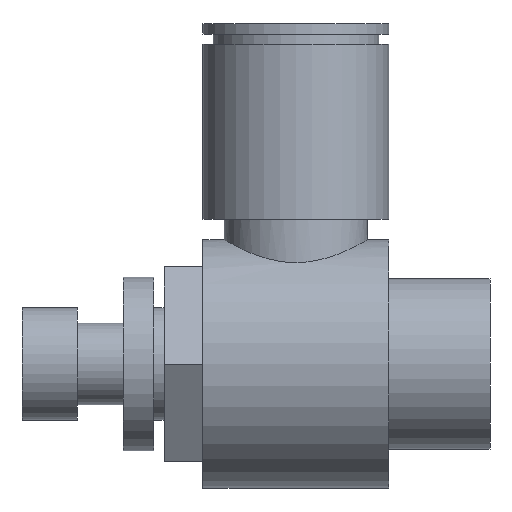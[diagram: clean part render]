
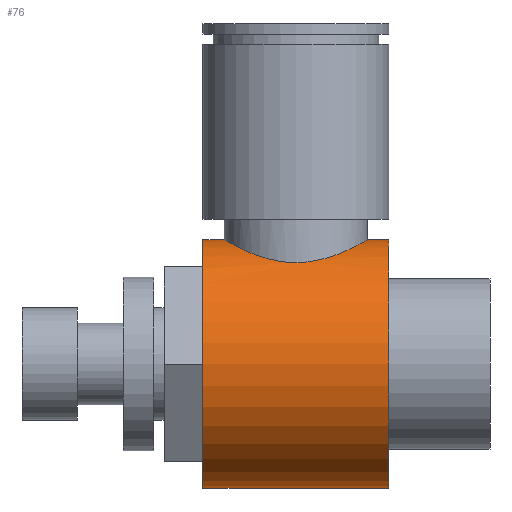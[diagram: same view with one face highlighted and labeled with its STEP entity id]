
A CAD part, left-side view. The second image highlights one B-rep face of the part: STEP entity #76.
In plain terms, the highlighted cylindrical face has radius 12.15 mm (diameter 24.3 mm), a partial arc.
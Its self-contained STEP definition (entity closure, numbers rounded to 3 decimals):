
#76 = ADVANCED_FACE( '', ( #119 ), #120, .T. );
#119 = FACE_OUTER_BOUND( '', #211, .T. );
#120 = CYLINDRICAL_SURFACE( '', #212, 12.15 );
#211 = EDGE_LOOP( '', ( #308, #309, #310, #311, #312, #313, #314 ) );
#212 = AXIS2_PLACEMENT_3D( '', #315, #316, #317 );
#308 = ORIENTED_EDGE( '', *, *, #600, .F. );
#309 = ORIENTED_EDGE( '', *, *, #601, .T. );
#310 = ORIENTED_EDGE( '', *, *, #602, .F. );
#311 = ORIENTED_EDGE( '', *, *, #603, .F. );
#312 = ORIENTED_EDGE( '', *, *, #604, .F. );
#313 = ORIENTED_EDGE( '', *, *, #605, .T. );
#314 = ORIENTED_EDGE( '', *, *, #606, .T. );
#315 = CARTESIAN_POINT( '', ( 0., 13.8, 0. ) );
#316 = DIRECTION( '', ( 0., 1., 0. ) );
#317 = DIRECTION( '', ( 0., 0., 1. ) );
#600 = EDGE_CURVE( '', #690, #691, #692, .T. );
#601 = EDGE_CURVE( '', #690, #693, #694, .T. );
#602 = EDGE_CURVE( '', #695, #693, #696, .T. );
#603 = EDGE_CURVE( '', #697, #695, #698, .T. );
#604 = EDGE_CURVE( '', #699, #697, #700, .T. );
#605 = EDGE_CURVE( '', #699, #701, #702, .T. );
#606 = EDGE_CURVE( '', #701, #691, #703, .T. );
#690 = VERTEX_POINT( '', #835 );
#691 = VERTEX_POINT( '', #836 );
#692 = LINE( '', #837, #838 );
#693 = VERTEX_POINT( '', #839 );
#694 = CIRCLE( '', #840, 12.15 );
#695 = VERTEX_POINT( '', #841 );
#696 = LINE( '', #842, #843 );
#697 = VERTEX_POINT( '', #844 );
#698 = CIRCLE( '', #845, 12.15 );
#699 = VERTEX_POINT( '', #846 );
#700 = LINE( '', #847, #848 );
#701 = VERTEX_POINT( '', #849 );
#702 = B_SPLINE_CURVE_WITH_KNOTS( '', 3, ( #850, #851, #852, #853, #854, #855, #856, #857, #858, #859, #860, #861, #862, #863, #864, #865, #866, #867 ), .UNSPECIFIED., .F., .F., ( 4, 2, 2, 2, 2, 2, 2, 2, 4 ), ( 32.547, 33.9, 35.252, 36.605, 37.958, 39.317, 40.677, 42.037, 43.396 ), .UNSPECIFIED. );
#703 = B_SPLINE_CURVE_WITH_KNOTS( '', 3, ( #868, #869, #870, #871, #872, #873, #874, #875, #876, #877, #878, #879, #880, #881, #882, #883, #884, #885 ), .UNSPECIFIED., .F., .F., ( 4, 2, 2, 2, 2, 2, 2, 2, 4 ), ( 0., 1.36, 2.719, 4.079, 5.439, 6.792, 8.144, 9.497, 10.849 ), .UNSPECIFIED. );
#835 = CARTESIAN_POINT( '', ( 0., 22.9, 12.15 ) );
#836 = CARTESIAN_POINT( '', ( 0., 20.8, 12.15 ) );
#837 = CARTESIAN_POINT( '', ( 0., 13.8, 12.15 ) );
#838 = VECTOR( '', #1084, 1. );
#839 = CARTESIAN_POINT( '', ( 0., 22.9, -12.15 ) );
#840 = AXIS2_PLACEMENT_3D( '', #1085, #1086, #1087 );
#841 = CARTESIAN_POINT( '', ( 0., 4.7, -12.15 ) );
#842 = CARTESIAN_POINT( '', ( 0., 13.8, -12.15 ) );
#843 = VECTOR( '', #1088, 1. );
#844 = CARTESIAN_POINT( '', ( 0., 4.7, 12.15 ) );
#845 = AXIS2_PLACEMENT_3D( '', #1089, #1090, #1091 );
#846 = CARTESIAN_POINT( '', ( 0., 6.8, 12.15 ) );
#847 = CARTESIAN_POINT( '', ( 0., 13.8, 12.15 ) );
#848 = VECTOR( '', #1092, 1. );
#849 = CARTESIAN_POINT( '', ( -7., 13.8, 9.931 ) );
#850 = CARTESIAN_POINT( '', ( 0., 6.8, 12.15 ) );
#851 = CARTESIAN_POINT( '', ( -0.451, 6.8, 12.15 ) );
#852 = CARTESIAN_POINT( '', ( -0.914, 6.844, 12.124 ) );
#853 = CARTESIAN_POINT( '', ( -1.828, 7.027, 12.021 ) );
#854 = CARTESIAN_POINT( '', ( -2.279, 7.165, 11.942 ) );
#855 = CARTESIAN_POINT( '', ( -3.139, 7.526, 11.746 ) );
#856 = CARTESIAN_POINT( '', ( -3.548, 7.749, 11.627 ) );
#857 = CARTESIAN_POINT( '', ( -4.302, 8.259, 11.37 ) );
#858 = CARTESIAN_POINT( '', ( -4.646, 8.546, 11.232 ) );
#859 = CARTESIAN_POINT( '', ( -5.255, 9.156, 10.96 ) );
#860 = CARTESIAN_POINT( '', ( -5.543, 9.501, 10.816 ) );
#861 = CARTESIAN_POINT( '', ( -6.053, 10.254, 10.539 ) );
#862 = CARTESIAN_POINT( '', ( -6.275, 10.662, 10.407 ) );
#863 = CARTESIAN_POINT( '', ( -6.634, 11.52, 10.181 ) );
#864 = CARTESIAN_POINT( '', ( -6.772, 11.97, 10.088 ) );
#865 = CARTESIAN_POINT( '', ( -6.955, 12.883, 9.963 ) );
#866 = CARTESIAN_POINT( '', ( -7., 13.347, 9.931 ) );
#867 = CARTESIAN_POINT( '', ( -7., 13.8, 9.931 ) );
#868 = CARTESIAN_POINT( '', ( -7., 13.8, 9.931 ) );
#869 = CARTESIAN_POINT( '', ( -7., 14.253, 9.931 ) );
#870 = CARTESIAN_POINT( '', ( -6.955, 14.717, 9.963 ) );
#871 = CARTESIAN_POINT( '', ( -6.772, 15.63, 10.088 ) );
#872 = CARTESIAN_POINT( '', ( -6.634, 16.08, 10.181 ) );
#873 = CARTESIAN_POINT( '', ( -6.275, 16.938, 10.407 ) );
#874 = CARTESIAN_POINT( '', ( -6.053, 17.346, 10.539 ) );
#875 = CARTESIAN_POINT( '', ( -5.543, 18.099, 10.816 ) );
#876 = CARTESIAN_POINT( '', ( -5.255, 18.444, 10.96 ) );
#877 = CARTESIAN_POINT( '', ( -4.646, 19.054, 11.232 ) );
#878 = CARTESIAN_POINT( '', ( -4.302, 19.341, 11.37 ) );
#879 = CARTESIAN_POINT( '', ( -3.548, 19.851, 11.627 ) );
#880 = CARTESIAN_POINT( '', ( -3.139, 20.074, 11.746 ) );
#881 = CARTESIAN_POINT( '', ( -2.279, 20.435, 11.942 ) );
#882 = CARTESIAN_POINT( '', ( -1.828, 20.573, 12.021 ) );
#883 = CARTESIAN_POINT( '', ( -0.914, 20.756, 12.124 ) );
#884 = CARTESIAN_POINT( '', ( -0.451, 20.8, 12.15 ) );
#885 = CARTESIAN_POINT( '', ( 0., 20.8, 12.15 ) );
#1084 = DIRECTION( '', ( 0., -1., 0. ) );
#1085 = CARTESIAN_POINT( '', ( 0., 22.9, 0. ) );
#1086 = DIRECTION( '', ( 0., -1., 0. ) );
#1087 = DIRECTION( '', ( 0., 0., 1. ) );
#1088 = DIRECTION( '', ( 0., 1., 0. ) );
#1089 = CARTESIAN_POINT( '', ( 0., 4.7, 0. ) );
#1090 = DIRECTION( '', ( 0., -1., 0. ) );
#1091 = DIRECTION( '', ( 0., 0., 1. ) );
#1092 = DIRECTION( '', ( 0., -1., 0. ) );
